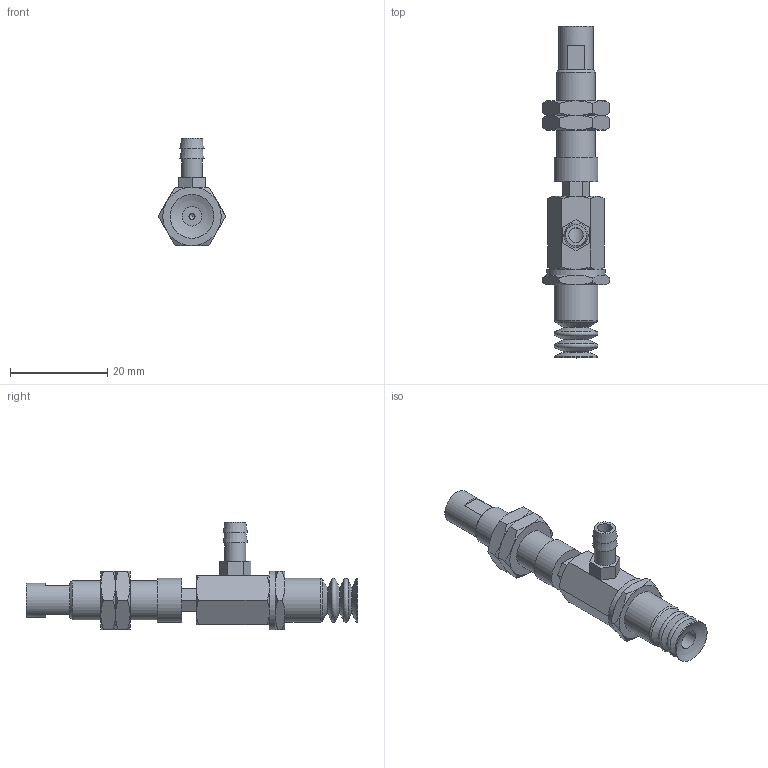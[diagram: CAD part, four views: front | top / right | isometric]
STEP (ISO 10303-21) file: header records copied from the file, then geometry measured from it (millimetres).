
FILE_DESCRIPTION(('STEP AP203'),'1');
FILE_NAME('-T.stp','2025-04-04T00:39:12',(' '),(' '),'Spatial InterOp 3D',' ',' ');
FILE_SCHEMA(('CONFIG_CONTROL_DESIGN'));
Length unit declared in the file: millimetre
Products named in the file (8): BNABPCYH-10-3-※-T; Adapter_napc-10-T; Connector_h-10-3; Nut napc_h-10-3; NAPCTH-10-3-FBODY; NAPCTH-10-3-MBODY; BPCG-10-※; T
Assembly tree (8 placements, depth 2):
  BNABPCYH-10-3-※-T
    Adapter_napc-10-T
    Connector_h-10-3
    Nut napc_h-10-3  x2
    NAPCTH-10-3-FBODY
    NAPCTH-10-3-MBODY
    BPCG-10-※
    T
Bounding box: 13.86 x 68.2 x 22 mm (x, y, z)
Volume: 4518.9 mm3; surface area: 5256.9 mm2
Topology: 8 solids, 8 shells, 187 faces, 394 edges, 236 vertices
Faces by surface type: plane 83, cone 72, cylinder 22, torus 8, sphere 2
Full cylindrical faces by diameter (mm): 1.25 x1, 3 x1, 4 x1, 4.134 x3, 4.3 x1, 5 x7, 7 x1, 7.188 x2, 8 x1, 9 x3, 12 x1
Entity records: 4842 total; most frequent: CARTESIAN_POINT 1202, DIRECTION 674, ORIENTED_EDGE 580, EDGE_CURVE 290, AXIS2_PLACEMENT_3D 287, EDGE_LOOP 240, VERTEX_POINT 205, FACE_OUTER_BOUND 195
